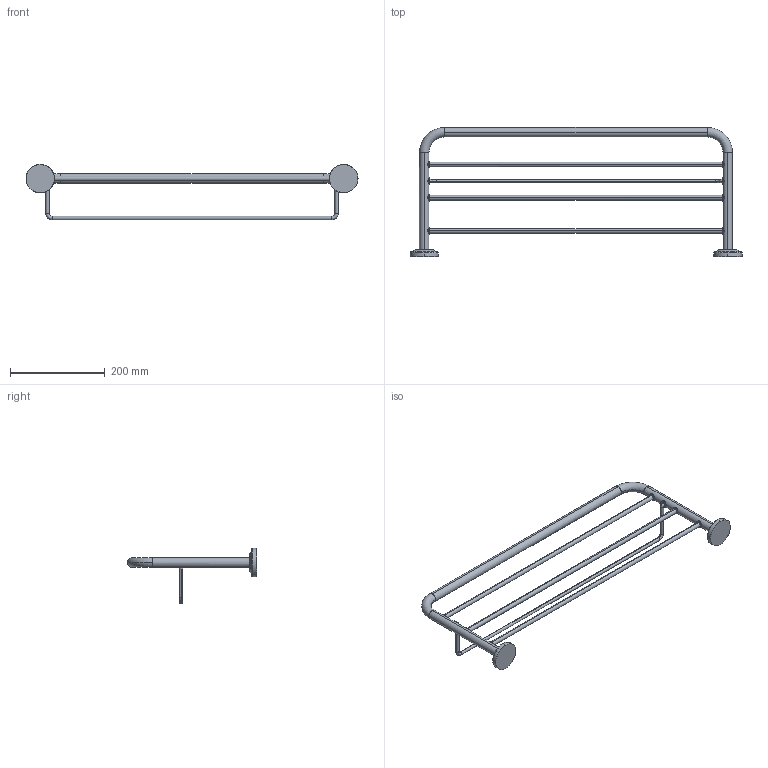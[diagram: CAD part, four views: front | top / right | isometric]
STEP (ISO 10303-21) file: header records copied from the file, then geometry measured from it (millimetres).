
FILE_DESCRIPTION(('THIS FILE CONTAINS SOME STEP INSTANCES'),'1');
FILE_NAME('sta_043.stp','2015-12-07T10:50:11',('UNDEFINED'),('UNDEFINED'),'T-FLEX CAD STEP converter','T-FLEX CAD','');
FILE_SCHEMA(('CONFIG_CONTROL_DESIGN'));
Length unit declared in the file: metre
Products named in the file (1): 3D 鐨飹懤艜_23
Bounding box: 700 x 272 x 116.5 mm (x, y, z)
Volume: 592250.2 mm3; surface area: 158746.6 mm2
Topology: 1 solids, 1 shells, 158 faces, 410 edges, 256 vertices
Faces by surface type: bspline 66, cylinder 56, torus 20, cone 12, plane 4
Entity records: 21410 total; most frequent: CARTESIAN_POINT 18521, ORIENTED_EDGE 820, EDGE_CURVE 410, B_SPLINE_CURVE_WITH_KNOTS 260, VERTEX_POINT 256, DIRECTION 254, EDGE_LOOP 168, ADVANCED_FACE 158
